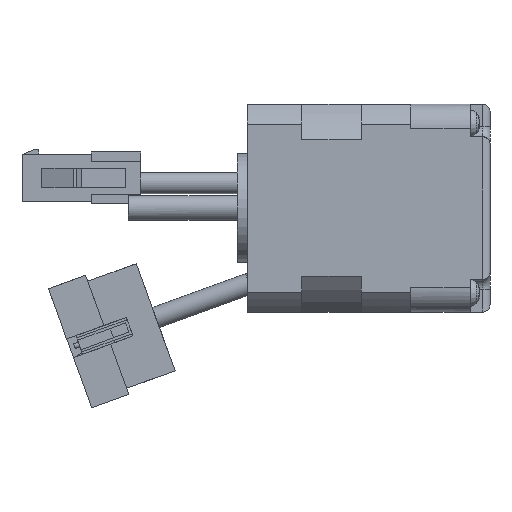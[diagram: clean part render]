
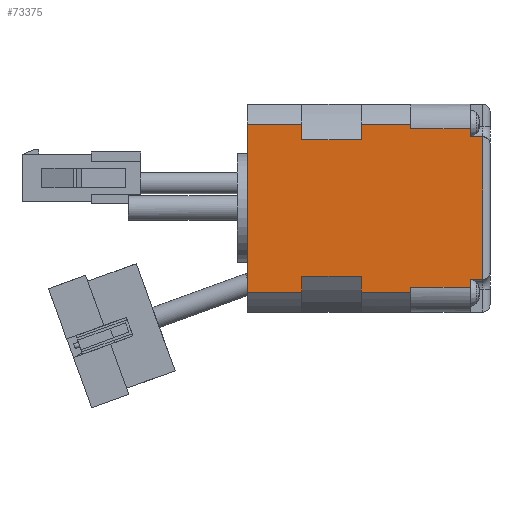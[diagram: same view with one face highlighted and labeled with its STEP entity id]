
A CAD part, front view. The second image highlights one B-rep face of the part: STEP entity #73375.
In plain terms, the highlighted planar face has unit normal (0, -1, 0).
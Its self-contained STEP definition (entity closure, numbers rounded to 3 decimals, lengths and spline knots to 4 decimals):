
#383=LINE('',#100475,#10760);
#384=LINE('',#100479,#10761);
#386=LINE('',#100486,#10763);
#400=LINE('',#100533,#10777);
#403=LINE('',#100544,#10780);
#404=LINE('',#100547,#10781);
#409=LINE('',#100569,#10786);
#410=LINE('',#100581,#10787);
#417=LINE('',#100591,#10794);
#418=LINE('',#100606,#10795);
#454=LINE('',#100701,#10831);
#455=LINE('',#100704,#10832);
#456=LINE('',#100706,#10833);
#457=LINE('',#100708,#10834);
#458=LINE('',#100710,#10835);
#459=LINE('',#100712,#10836);
#460=LINE('',#100714,#10837);
#461=LINE('',#100716,#10838);
#462=LINE('',#100718,#10839);
#463=LINE('',#100719,#10840);
#10760=VECTOR('',#81561,0.1262);
#10761=VECTOR('',#81564,0.1262);
#10763=VECTOR('',#81572,0.4724);
#10777=VECTOR('',#81616,0.4724);
#10780=VECTOR('',#81627,0.1262);
#10781=VECTOR('',#81630,0.1262);
#10786=VECTOR('',#81651,1.3363);
#10787=VECTOR('',#81664,0.4331);
#10794=VECTOR('',#81677,0.4331);
#10795=VECTOR('',#81696,0.3937);
#10831=VECTOR('',#81768,0.3937);
#10832=VECTOR('',#81771,0.0382);
#10833=VECTOR('',#81772,0.4724);
#10834=VECTOR('',#81773,0.063);
#10835=VECTOR('',#81774,0.0984);
#10836=VECTOR('',#81775,1.1339);
#10837=VECTOR('',#81776,0.0984);
#10838=VECTOR('',#81777,0.063);
#10839=VECTOR('',#81778,0.4724);
#10840=VECTOR('',#81779,0.0382);
#21107=PLANE('',#77256);
#24892=FACE_OUTER_BOUND('',#28690,.T.);
#28690=EDGE_LOOP('',(#51680,#51681,#51682,#51683,#51684,#51685,#51686,#51687,
#51688,#51689,#51690,#51691,#51692,#51693,#51694,#51695,#51696,#51697,#51698,
#51699));
#33104=VERTEX_POINT('',#100469);
#33106=VERTEX_POINT('',#100473);
#33107=VERTEX_POINT('',#100477);
#33108=VERTEX_POINT('',#100478);
#33127=VERTEX_POINT('',#100531);
#33128=VERTEX_POINT('',#100532);
#33132=VERTEX_POINT('',#100542);
#33133=VERTEX_POINT('',#100546);
#33135=VERTEX_POINT('',#100554);
#33142=VERTEX_POINT('',#100567);
#33152=VERTEX_POINT('',#100605);
#33193=VERTEX_POINT('',#100699);
#33194=VERTEX_POINT('',#100703);
#33195=VERTEX_POINT('',#100705);
#33196=VERTEX_POINT('',#100707);
#33197=VERTEX_POINT('',#100709);
#33198=VERTEX_POINT('',#100711);
#33199=VERTEX_POINT('',#100713);
#33200=VERTEX_POINT('',#100715);
#33201=VERTEX_POINT('',#100717);
#40462=EDGE_CURVE('',#33104,#33106,#383,.T.);
#40463=EDGE_CURVE('',#33107,#33108,#384,.T.);
#40467=EDGE_CURVE('',#33108,#33106,#386,.T.);
#40489=EDGE_CURVE('',#33127,#33128,#400,.T.);
#40495=EDGE_CURVE('',#33127,#33132,#403,.T.);
#40496=EDGE_CURVE('',#33128,#33133,#404,.T.);
#40507=EDGE_CURVE('',#33142,#33135,#409,.T.);
#40513=EDGE_CURVE('',#33135,#33132,#410,.T.);
#40520=EDGE_CURVE('',#33142,#33104,#417,.T.);
#40526=EDGE_CURVE('',#33133,#33152,#418,.T.);
#40574=EDGE_CURVE('',#33107,#33193,#454,.T.);
#40575=EDGE_CURVE('',#33193,#33194,#455,.T.);
#40576=EDGE_CURVE('',#33194,#33195,#456,.T.);
#40577=EDGE_CURVE('',#33196,#33195,#457,.T.);
#40578=EDGE_CURVE('',#33196,#33197,#458,.T.);
#40579=EDGE_CURVE('',#33197,#33198,#459,.T.);
#40580=EDGE_CURVE('',#33199,#33198,#460,.T.);
#40581=EDGE_CURVE('',#33200,#33199,#461,.T.);
#40582=EDGE_CURVE('',#33201,#33200,#462,.T.);
#40583=EDGE_CURVE('',#33201,#33152,#463,.T.);
#51680=ORIENTED_EDGE('',*,*,#40463,.F.);
#51681=ORIENTED_EDGE('',*,*,#40574,.T.);
#51682=ORIENTED_EDGE('',*,*,#40575,.T.);
#51683=ORIENTED_EDGE('',*,*,#40576,.T.);
#51684=ORIENTED_EDGE('',*,*,#40577,.F.);
#51685=ORIENTED_EDGE('',*,*,#40578,.T.);
#51686=ORIENTED_EDGE('',*,*,#40579,.T.);
#51687=ORIENTED_EDGE('',*,*,#40580,.F.);
#51688=ORIENTED_EDGE('',*,*,#40581,.F.);
#51689=ORIENTED_EDGE('',*,*,#40582,.F.);
#51690=ORIENTED_EDGE('',*,*,#40583,.T.);
#51691=ORIENTED_EDGE('',*,*,#40526,.F.);
#51692=ORIENTED_EDGE('',*,*,#40496,.F.);
#51693=ORIENTED_EDGE('',*,*,#40489,.F.);
#51694=ORIENTED_EDGE('',*,*,#40495,.T.);
#51695=ORIENTED_EDGE('',*,*,#40513,.F.);
#51696=ORIENTED_EDGE('',*,*,#40507,.F.);
#51697=ORIENTED_EDGE('',*,*,#40520,.T.);
#51698=ORIENTED_EDGE('',*,*,#40462,.T.);
#51699=ORIENTED_EDGE('',*,*,#40467,.F.);
#73375=ADVANCED_FACE('',(#24892),#21107,.F.);
#77256=AXIS2_PLACEMENT_3D('',#100702,#81769,#81770);
#81561=DIRECTION('',(0.,0.,1.));
#81564=DIRECTION('',(0.,0.,1.));
#81572=DIRECTION('',(-1.,0.,0.));
#81616=DIRECTION('',(1.,0.,0.));
#81627=DIRECTION('',(0.,0.,1.));
#81630=DIRECTION('',(0.,0.,1.));
#81651=DIRECTION('',(0.,0.,1.));
#81664=DIRECTION('',(1.,0.,0.));
#81677=DIRECTION('',(1.,0.,0.));
#81696=DIRECTION('',(1.,0.,0.));
#81768=DIRECTION('',(1.,0.,0.));
#81769=DIRECTION('center_axis',(0.,1.,0.));
#81770=DIRECTION('ref_axis',(0.,0.,-1.));
#81771=DIRECTION('',(0.,0.,1.));
#81772=DIRECTION('',(1.,0.,0.));
#81773=DIRECTION('',(0.,0.,-1.));
#81774=DIRECTION('',(1.,0.,0.));
#81775=DIRECTION('',(0.,0.,1.));
#81776=DIRECTION('',(1.,0.,0.));
#81777=DIRECTION('',(0.,0.,-1.));
#81778=DIRECTION('',(1.,0.,0.));
#81779=DIRECTION('',(0.,0.,1.));
#100469=CARTESIAN_POINT('',(-0.8661,-0.8535,-0.8372));
#100473=CARTESIAN_POINT('',(-0.8661,-0.8535,-0.7111));
#100475=CARTESIAN_POINT('',(-0.8661,-0.8535,-0.8372));
#100477=CARTESIAN_POINT('',(-0.3937,-0.8535,-0.8372));
#100478=CARTESIAN_POINT('',(-0.3937,-0.8535,-0.7111));
#100479=CARTESIAN_POINT('',(-0.3937,-0.8535,-0.8372));
#100486=CARTESIAN_POINT('',(-0.3937,-0.8535,-0.7111));
#100531=CARTESIAN_POINT('',(-0.8661,-0.8535,0.3729));
#100532=CARTESIAN_POINT('',(-0.3937,-0.8535,0.3729));
#100533=CARTESIAN_POINT('',(-0.3937,-0.8535,0.3729));
#100542=CARTESIAN_POINT('',(-0.8661,-0.8535,0.499));
#100544=CARTESIAN_POINT('',(-0.8661,-0.8535,-0.8372));
#100546=CARTESIAN_POINT('',(-0.3937,-0.8535,0.499));
#100547=CARTESIAN_POINT('',(-0.3937,-0.8535,-0.8372));
#100554=CARTESIAN_POINT('',(-1.2992,-0.8535,0.499));
#100567=CARTESIAN_POINT('',(-1.2992,-0.8535,-0.8372));
#100569=CARTESIAN_POINT('',(-1.2992,-0.8535,-0.8372));
#100581=CARTESIAN_POINT('',(-1.2992,-0.8535,0.499));
#100591=CARTESIAN_POINT('',(-1.2992,-0.8535,-0.8372));
#100605=CARTESIAN_POINT('',(0.,-0.8535,0.499));
#100606=CARTESIAN_POINT('',(-1.2992,-0.8535,0.499));
#100699=CARTESIAN_POINT('',(0.,-0.8535,-0.8372));
#100701=CARTESIAN_POINT('',(-1.2992,-0.8535,-0.8372));
#100702=CARTESIAN_POINT('Origin',(-1.2992,-0.8535,
-0.8372));
#100703=CARTESIAN_POINT('',(0.,-0.8535,-0.799));
#100704=CARTESIAN_POINT('',(0.,-0.8535,-0.8372));
#100705=CARTESIAN_POINT('',(0.4724,-0.8535,-0.799));
#100706=CARTESIAN_POINT('',(0.,-0.8535,-0.799));
#100707=CARTESIAN_POINT('',(0.4724,-0.8535,-0.736));
#100708=CARTESIAN_POINT('',(0.4724,-0.8535,-0.736));
#100709=CARTESIAN_POINT('',(0.5709,-0.8535,-0.736));
#100710=CARTESIAN_POINT('',(0.4724,-0.8535,-0.736));
#100711=CARTESIAN_POINT('',(0.5709,-0.8535,0.3978));
#100712=CARTESIAN_POINT('',(0.5709,-0.8535,-2.3924));
#100713=CARTESIAN_POINT('',(0.4724,-0.8535,0.3978));
#100714=CARTESIAN_POINT('',(0.4724,-0.8535,0.3978));
#100715=CARTESIAN_POINT('',(0.4724,-0.8535,0.4608));
#100716=CARTESIAN_POINT('',(0.4724,-0.8535,0.3978));
#100717=CARTESIAN_POINT('',(0.,-0.8535,0.4608));
#100718=CARTESIAN_POINT('',(0.,-0.8535,0.4608));
#100719=CARTESIAN_POINT('',(0.,-0.8535,-0.8372));
